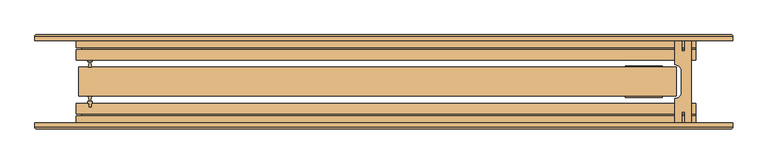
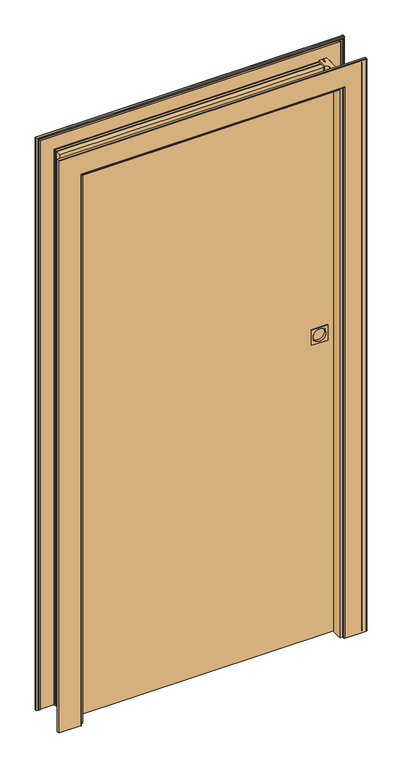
"""IFC4 building model written with IfcOpenShell, lengths in millimetres: door geometry, DoorInternal_Barausse_Feel Plus Sliding wall-125+x : Int_Door_Barausse_Feel-Plus-Sliding_900x2000_Wall-125+x."""

from ifc_helpers import new_model, si_unit, point, frame, frame_2d, origin, origin_with_axes, place, context, project, spatial, polyline, circle_curve, ellipse_curve, trimmed, segment, composite_curve, outline, extrude, faceted_brep, source, transform, mapped, element, save
from ifc_brep_helpers import plane_surface, cylinder_surface, revolved_surface, advanced_brep


def door_3eefad80(model_context):
    return source(origin(), model_context, "Body", "SolidModel", [
        advanced_brep(
        [(375.219, 23.7, 1100.0), (375.219, 14.7, 1100.0), (419.719, 14.7, 1100.0), (419.719, 23.7, 1100.0), (373.719, 22.2, 1100.0), (373.719, 11.7, 1100.0), (421.219, 11.7, 1100.0), (421.219, 22.2, 1100.0), (375.219, 13.2, 1100.0), (375.219, 11.7, 1100.0), (419.719, 11.7, 1100.0), (419.719, 13.2, 1100.0), (425.719, 22.2, 1071.75), (425.719, 22.2, 1128.25), (369.219, 22.2, 1128.25), (369.219, 22.2, 1071.75), (369.219, 23.7, 1071.75), (369.219, 23.7, 1128.25), (425.719, 23.7, 1128.25), (425.719, 23.7, 1071.75)],
        [
            (0, 1),
            (1, 2, circle_curve(frame((397.469, 14.7, 1100.0), z_axis=(0.0, -1.0, 0.0), x_axis=(-1.0, 0.0, 0.0)), 22.25)),
            (2, 3),
            (3, 0, circle_curve(frame((397.469, 23.7, 1100.0), z_axis=(0.0, 1.0, 0.0), x_axis=(-1.0, 0.0, 0.0)), 22.25)),
            (4, 5),
            (5, 6, circle_curve(frame((397.469, 11.7, 1100.0), z_axis=(0.0, 1.0, 0.0), x_axis=(-1.0, 0.0, 0.0)), 23.75)),
            (6, 7),
            (7, 4, circle_curve(frame((397.469, 22.2, 1100.0), z_axis=(0.0, -1.0, 0.0), x_axis=(-1.0, 0.0, 0.0)), 23.75)),
            (8, 9),
            (9, 10, circle_curve(frame((397.469, 11.7, 1100.0), z_axis=(0.0, -1.0, 0.0), x_axis=(-1.0, 0.0, 0.0)), 22.25)),
            (10, 11),
            (11, 8, circle_curve(frame((397.469, 13.2, 1100.0), z_axis=(0.0, 1.0, 0.0), x_axis=(-1.0, 0.0, 0.0)), 22.25)),
            (11, 8, circle_curve(frame((397.469, 13.2, 1100.0), z_axis=(0.0, -1.0, 0.0), x_axis=(-1.0, 0.0, 0.0)), 22.25)),
            (10, 9, circle_curve(frame((397.469, 11.7, 1100.0), z_axis=(0.0, -1.0, 0.0), x_axis=(-1.0, 0.0, 0.0)), 22.25)),
            (5, 6, circle_curve(frame((397.469, 11.7, 1100.0), z_axis=(0.0, -1.0, 0.0), x_axis=(-1.0, 0.0, 0.0)), 23.75)),
            (4, 7, circle_curve(frame((397.469, 22.2, 1100.0), z_axis=(0.0, -1.0, 0.0), x_axis=(-1.0, 0.0, 0.0)), 23.75)),
            (12, 13),
            (13, 14),
            (14, 15),
            (15, 12),
            (16, 15),
            (14, 17),
            (17, 16),
            (13, 18),
            (18, 17),
            (12, 19),
            (19, 18),
            (16, 19),
            (1, 2, circle_curve(frame((397.469, 14.7, 1100.0), z_axis=(0.0, 1.0, 0.0), x_axis=(-1.0, 0.0, 0.0)), 22.25)),
            (0, 3, circle_curve(frame((397.469, 23.7, 1100.0), z_axis=(0.0, 1.0, 0.0), x_axis=(-1.0, 0.0, 0.0)), 22.25)),
        ],
        [
            revolved_surface(polyline([(375.219, 14.7, 1100.0), (375.219, 23.7, 1100.0)]), (397.469, 13.2, 1100.0), (0.0, -1.0, 0.0)),
            cylinder_surface(frame((397.469, 13.2, 1100.0), z_axis=(0.0, -1.0, 0.0), x_axis=(-1.0, 0.0, 0.0)), 23.75),
            revolved_surface(polyline([(375.219, 11.7, 1100.0), (375.219, 13.2, 1100.0)]), (397.469, 13.2, 1100.0), (0.0, -1.0, 0.0)),
            plane_surface(frame((397.469, 13.2, 1100.0), z_axis=(0.0, -1.0, 0.0), x_axis=(-1.0, 0.0, 0.0))),
            plane_surface(frame((373.719, 11.7, 1100.0), z_axis=(0.0, -1.0, 0.0), x_axis=(-1.0, 0.0, 0.0))),
            plane_surface(frame((369.219, 22.2, 1100.0), z_axis=(0.0, -1.0, 0.0), x_axis=(-1.0, 0.0, 0.0))),
            plane_surface(frame((369.219, -57.7030663, 1071.75), z_axis=(-1.0, 0.0, 0.0), x_axis=(0.0, 1.0, 0.0))),
            plane_surface(frame((425.719, -57.7030663, 1128.25), z_axis=(0.0, 0.0, 1.0), x_axis=(0.0, -1.0, 0.0))),
            plane_surface(frame((425.719, -57.7030663, 1071.75), z_axis=(1.0, 0.0, 0.0), x_axis=(0.0, -1.0, 0.0))),
            plane_surface(frame((425.719, -57.7030663, 1071.75), z_axis=(0.0, 0.0, -1.0), x_axis=(0.0, 1.0, 0.0))),
            plane_surface(frame((397.469, 14.7, 1100.0), z_axis=(0.0, 1.0, 0.0), x_axis=(1.0, 0.0, 0.0))),
            plane_surface(frame((375.219, 23.7, 1100.0), z_axis=(0.0, 1.0, 0.0), x_axis=(1.0, 0.0, 0.0))),
        ],
        [
            (0, [[1, 2, 3, 4]]),
            (1, [[5, 6, 7, 8]]),
            (2, [[9, 10, 11, 12]]),
            (3, [[-12, 13]]),
            (2, [[14, -9, -13, -11]]),
            (4, [[15, -6], [-10, -14]]),
            (1, [[-15, -5, 16, -7]]),
            (5, [[17, 18, 19, 20], [-16, -8]]),
            (6, [[21, -19, 22, 23]]),
            (7, [[-22, -18, 24, 25]]),
            (8, [[-17, 26, 27, -24]]),
            (9, [[-26, -20, -21, 28]]),
            (10, [[-2, 29]]),
            (0, [[-29, -1, 30, -3]]),
            (11, [[-28, -23, -25, -27], [-4, -30]]),
        ],
    ),
        advanced_brep(
        [(419.719, -23.7, 1100.0), (419.719, -14.7, 1100.0), (375.219, -14.7, 1100.0), (375.219, -23.7, 1100.0), (421.219, -22.2, 1100.0), (421.219, -11.7, 1100.0), (373.719, -11.7, 1100.0), (373.719, -22.2, 1100.0), (419.719, -13.2, 1100.0), (419.719, -11.7, 1100.0), (375.219, -11.7, 1100.0), (375.219, -13.2, 1100.0), (369.219, -22.2, 1071.75), (369.219, -22.2, 1128.25), (425.719, -22.2, 1128.25), (425.719, -22.2, 1071.75), (425.719, -23.7, 1071.75), (425.719, -23.7, 1128.25), (369.219, -23.7, 1128.25), (369.219, -23.7, 1071.75)],
        [
            (0, 1),
            (1, 2, circle_curve(frame((397.469, -14.7, 1100.0), z_axis=(0.0, 1.0, 0.0), x_axis=(1.0, 0.0, 0.0)), 22.25)),
            (2, 3),
            (3, 0, circle_curve(frame((397.469, -23.7, 1100.0), z_axis=(0.0, -1.0, 0.0), x_axis=(1.0, 0.0, 0.0)), 22.25)),
            (4, 5),
            (5, 6, circle_curve(frame((397.469, -11.7, 1100.0), z_axis=(0.0, -1.0, 0.0), x_axis=(1.0, 0.0, 0.0)), 23.75)),
            (6, 7),
            (7, 4, circle_curve(frame((397.469, -22.2, 1100.0), z_axis=(0.0, 1.0, 0.0), x_axis=(1.0, 0.0, 0.0)), 23.75)),
            (8, 9),
            (9, 10, circle_curve(frame((397.469, -11.7, 1100.0), z_axis=(0.0, 1.0, 0.0), x_axis=(1.0, 0.0, 0.0)), 22.25)),
            (10, 11),
            (11, 8, circle_curve(frame((397.469, -13.2, 1100.0), z_axis=(0.0, -1.0, 0.0), x_axis=(1.0, 0.0, 0.0)), 22.25)),
            (11, 8, circle_curve(frame((397.469, -13.2, 1100.0), z_axis=(0.0, 1.0, 0.0), x_axis=(1.0, 0.0, 0.0)), 22.25)),
            (10, 9, circle_curve(frame((397.469, -11.7, 1100.0), z_axis=(0.0, 1.0, 0.0), x_axis=(1.0, 0.0, 0.0)), 22.25)),
            (5, 6, circle_curve(frame((397.469, -11.7, 1100.0), z_axis=(0.0, 1.0, 0.0), x_axis=(1.0, 0.0, 0.0)), 23.75)),
            (4, 7, circle_curve(frame((397.469, -22.2, 1100.0), z_axis=(0.0, 1.0, 0.0), x_axis=(1.0, 0.0, 0.0)), 23.75)),
            (12, 13),
            (13, 14),
            (14, 15),
            (15, 12),
            (16, 15),
            (14, 17),
            (17, 16),
            (13, 18),
            (18, 17),
            (12, 19),
            (19, 18),
            (16, 19),
            (1, 2, circle_curve(frame((397.469, -14.7, 1100.0), z_axis=(0.0, -1.0, 0.0), x_axis=(1.0, 0.0, 0.0)), 22.25)),
            (0, 3, circle_curve(frame((397.469, -23.7, 1100.0), z_axis=(0.0, -1.0, 0.0), x_axis=(1.0, 0.0, 0.0)), 22.25)),
        ],
        [
            revolved_surface(polyline([(419.719, -14.7, 1100.0), (419.719, -23.7, 1100.0)]), (397.469, -13.2, 1100.0), (0.0, 1.0, 0.0)),
            cylinder_surface(frame((397.469, -13.2, 1100.0), z_axis=(0.0, 1.0, 0.0), x_axis=(1.0, 0.0, 0.0)), 23.75),
            revolved_surface(polyline([(419.719, -11.7, 1100.0), (419.719, -13.2, 1100.0)]), (397.469, -13.2, 1100.0), (0.0, 1.0, 0.0)),
            plane_surface(frame((397.469, -13.2, 1100.0), z_axis=(0.0, 1.0, 0.0), x_axis=(1.0, 0.0, 0.0))),
            plane_surface(frame((421.219, -11.7, 1100.0), z_axis=(0.0, 1.0, 0.0), x_axis=(1.0, 0.0, 0.0))),
            plane_surface(frame((425.719, -22.2, 1100.0), z_axis=(0.0, 1.0, 0.0), x_axis=(1.0, 0.0, 0.0))),
            plane_surface(frame((425.719, 57.7030663, 1071.75), z_axis=(1.0, 0.0, 0.0), x_axis=(0.0, -1.0, 0.0))),
            plane_surface(frame((369.219, 57.7030663, 1128.25), z_axis=(0.0, 0.0, 1.0), x_axis=(0.0, 1.0, 0.0))),
            plane_surface(frame((369.219, 57.7030663, 1071.75), z_axis=(-1.0, 0.0, 0.0), x_axis=(0.0, 1.0, 0.0))),
            plane_surface(frame((369.219, 57.7030663, 1071.75), z_axis=(0.0, 0.0, -1.0), x_axis=(0.0, -1.0, 0.0))),
            plane_surface(frame((397.469, -14.7, 1100.0), z_axis=(0.0, -1.0, 0.0), x_axis=(-1.0, 0.0, 0.0))),
            plane_surface(frame((419.719, -23.7, 1100.0), z_axis=(0.0, -1.0, 0.0), x_axis=(-1.0, 0.0, 0.0))),
        ],
        [
            (0, [[1, 2, 3, 4]]),
            (1, [[5, 6, 7, 8]]),
            (2, [[9, 10, 11, 12]]),
            (3, [[-12, 13]]),
            (2, [[14, -9, -13, -11]]),
            (4, [[15, -6], [-10, -14]]),
            (1, [[-15, -5, 16, -7]]),
            (5, [[17, 18, 19, 20], [-16, -8]]),
            (6, [[21, -19, 22, 23]]),
            (7, [[-22, -18, 24, 25]]),
            (8, [[-17, 26, 27, -24]]),
            (9, [[-26, -20, -21, 28]]),
            (10, [[-2, 29]]),
            (0, [[-29, -1, 30, -3]]),
            (11, [[-28, -23, -25, -27], [-4, -30]]),
        ],
    ),
        extrude(outline(polyline([(-450.35, 39.0000026), (-447.35, 39.0000026), (-447.35, 33.0000026), (-445.35, 33.0000026), (-445.35, 30.5000026), (-448.5342105, 30.5000026), (-446.0710522, 22.7000013), (-451.6289478, 22.7000013), (-449.1657895, 30.5000026), (-452.35, 30.5000026), (-452.35, 33.0000026), (-450.35, 33.0000026), (-450.35, 39.0000026)])), origin_with_axes(), (0.0, 0.0, 1.0), 2003.5),
        extrude(outline(polyline([(-447.35, -39.0), (-450.35, -39.0), (-450.35, -33.0), (-452.35, -33.0), (-452.35, -30.5), (-449.1657895, -30.5), (-451.6289478, -22.6999987), (-446.0710522, -22.6999987), (-448.5342105, -30.5), (-445.35, -30.5), (-445.35, -33.0), (-447.35, -33.0), (-447.35, -39.0)])), origin_with_axes(), (0.0, 0.0, 1.0), 2028.5),
        advanced_brep(
        [(-531.1764934, 71.778125, 0.0), (-457.1764934, 71.778125, 0.0), (-455.1764934, 69.778125, 0.0), (-455.1764934, 57.5000026, 0.0), (-459.1764934, 57.5000026, 0.0), (-459.1764934, 62.578125, 0.0), (-471.1764934, 62.578125, 0.0), (-472.1764934, 63.578125, 0.0), (-519.1764934, 63.578125, 0.0), (-520.1764934, 62.578125, 0.0), (-525.3764934, 62.578125, 0.0), (-525.3764934, 65.078125, 0.0), (-529.1764934, 65.078125, 0.0), (-529.1764934, 62.578125, 0.0), (-533.1764934, 62.578125, 0.0), (-533.1764934, 69.778125, 0.0), (-533.1764934, 69.778125, 2091.8264934), (-531.1764934, 71.778125, 2089.8264934), (-533.1764934, 62.578125, 2091.8264934), (-529.1764934, 62.578125, 2087.8264934), (529.1764934, 62.578125, 2087.8264934), (529.1764934, 62.578125, 0.0), (533.1764934, 62.578125, 0.0), (533.1764934, 62.578125, 2091.8264934), (-529.1764934, 65.078125, 2087.8264934), (-525.3764934, 65.078125, 2084.0264934), (525.3764934, 65.078125, 2084.0264934), (525.3764934, 65.078125, 0.0), (529.1764934, 65.078125, 0.0), (529.1764934, 65.078125, 2087.8264934), (-525.3764934, 62.578125, 2084.0264934), (-520.1764934, 62.578125, 2078.8264934), (520.1764934, 62.578125, 2078.8264934), (520.1764934, 62.578125, 0.0), (525.3764934, 62.578125, 0.0), (525.3764934, 62.578125, 2084.0264934), (-519.1764934, 63.578125, 2077.8264934), (-472.1764934, 63.578125, 2030.8264934), (472.1764934, 63.578125, 2030.8264934), (472.1764934, 63.578125, 0.0), (519.1764934, 63.578125, 0.0), (519.1764934, 63.578125, 2077.8264934), (-471.1764934, 62.578125, 2029.8264934), (-459.1764934, 62.578125, 2017.8264934), (459.1764934, 62.578125, 2017.8264934), (459.1764934, 62.578125, 0.0), (471.1764934, 62.578125, 0.0), (471.1764934, 62.578125, 2029.8264934), (-459.1764934, 57.5000026, 2017.8264934), (-455.1764934, 57.5000026, 2013.8264934), (455.1764934, 57.5000026, 2013.8264934), (455.1764934, 57.5000026, 0.0), (459.1764934, 57.5000026, 0.0), (459.1764934, 57.5000026, 2017.8264934), (-455.1764934, 69.778125, 2013.8264934), (-457.1764934, 71.778125, 2015.8264934), (531.1764934, 71.778125, 2089.8264934), (531.1764934, 71.778125, 0.0), (457.1764934, 71.778125, 0.0), (457.1764934, 71.778125, 2015.8264934), (533.1764934, 69.778125, 0.0), (533.1764934, 69.778125, 2091.8264934), (455.1764934, 69.778125, 0.0), (455.1764934, 69.778125, 2013.8264934)],
        [
            (0, 1),
            (1, 2, circle_curve(frame((-457.1764934, 69.778125, 0.0), z_axis=(0.0, 0.0, -1.0), x_axis=(0.0, 1.0, 0.0)), 2.0)),
            (2, 3),
            (3, 4),
            (4, 5),
            (5, 6),
            (6, 7, circle_curve(frame((-472.1764934, 62.578125, 0.0), z_axis=(0.0, 0.0, 1.0), x_axis=(0.0, 1.0, 0.0)), 1.0)),
            (7, 8),
            (8, 9, circle_curve(frame((-519.1764934, 62.578125, 0.0), z_axis=(0.0, 0.0, 1.0), x_axis=(0.0, 1.0, 0.0)), 1.0)),
            (9, 10),
            (10, 11),
            (11, 12),
            (12, 13),
            (13, 14),
            (14, 15),
            (15, 0, circle_curve(frame((-531.1764934, 69.778125, 0.0), z_axis=(0.0, 0.0, -1.0), x_axis=(0.0, 1.0, 0.0)), 2.0)),
            (15, 16),
            (16, 17, ellipse_curve(frame((-531.1764934, 69.778125, 2089.8264934), z_axis=(-0.7071067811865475, 0.0, -0.7071067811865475), x_axis=(0.7071067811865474, 0.0, -0.7071067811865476)), 2.8284271, 2.0)),
            (17, 0),
            (14, 18),
            (18, 16),
            (13, 19),
            (19, 20),
            (20, 21),
            (21, 22),
            (22, 23),
            (23, 18),
            (12, 24),
            (24, 19),
            (11, 25),
            (25, 26),
            (26, 27),
            (27, 28),
            (28, 29),
            (29, 24),
            (10, 30),
            (30, 25),
            (9, 31),
            (31, 32),
            (32, 33),
            (33, 34),
            (34, 35),
            (35, 30),
            (8, 36),
            (36, 31, ellipse_curve(frame((-519.1764934, 62.578125, 2077.8264934), z_axis=(0.7071067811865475, 0.0, 0.7071067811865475), x_axis=(-0.7071067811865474, 0.0, 0.7071067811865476)), 1.4142136, 1.0)),
            (7, 37),
            (37, 38),
            (38, 39),
            (39, 40),
            (40, 41),
            (41, 36),
            (6, 42),
            (42, 37, ellipse_curve(frame((-472.1764934, 62.578125, 2030.8264934), z_axis=(0.7071067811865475, 0.0, 0.7071067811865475), x_axis=(-0.7071067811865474, 0.0, 0.7071067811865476)), 1.4142136, 1.0)),
            (5, 43),
            (43, 44),
            (44, 45),
            (45, 46),
            (46, 47),
            (47, 42),
            (4, 48),
            (48, 43),
            (3, 49),
            (49, 50),
            (50, 51),
            (51, 52),
            (52, 53),
            (53, 48),
            (2, 54),
            (54, 49),
            (1, 55),
            (55, 54, ellipse_curve(frame((-457.1764934, 69.778125, 2015.8264934), z_axis=(-0.7071067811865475, 0.0, -0.7071067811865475), x_axis=(0.7071067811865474, 0.0, -0.7071067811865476)), 2.8284271, 2.0)),
            (17, 56),
            (56, 57),
            (57, 58),
            (58, 59),
            (59, 55),
            (22, 60),
            (60, 61),
            (61, 23),
            (57, 60, circle_curve(frame((531.1764934, 69.778125, 0.0), z_axis=(0.0, 0.0, -1.0), x_axis=(0.0, 1.0, 0.0)), 2.0)),
            (21, 28),
            (27, 34),
            (33, 40, circle_curve(frame((519.1764934, 62.578125, 0.0), z_axis=(0.0, 0.0, 1.0), x_axis=(0.0, 1.0, 0.0)), 1.0)),
            (39, 46, circle_curve(frame((472.1764934, 62.578125, 0.0), z_axis=(0.0, 0.0, 1.0), x_axis=(0.0, 1.0, 0.0)), 1.0)),
            (45, 52),
            (51, 62),
            (62, 58, circle_curve(frame((457.1764934, 69.778125, 0.0), z_axis=(0.0, 0.0, -1.0), x_axis=(0.0, 1.0, 0.0)), 2.0)),
            (20, 29),
            (26, 35),
            (32, 41, ellipse_curve(frame((519.1764934, 62.578125, 2077.8264934), z_axis=(-0.7071067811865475, 0.0, 0.7071067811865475), x_axis=(-0.7071067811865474, 0.0, -0.7071067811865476)), 1.4142136, 1.0)),
            (38, 47, ellipse_curve(frame((472.1764934, 62.578125, 2030.8264934), z_axis=(-0.7071067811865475, 0.0, 0.7071067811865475), x_axis=(-0.7071067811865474, 0.0, -0.7071067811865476)), 1.4142136, 1.0)),
            (44, 53),
            (62, 63),
            (63, 59, ellipse_curve(frame((457.1764934, 69.778125, 2015.8264934), z_axis=(0.7071067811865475, 0.0, -0.7071067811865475), x_axis=(0.7071067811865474, 0.0, 0.7071067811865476)), 2.8284271, 2.0)),
            (56, 61, ellipse_curve(frame((531.1764934, 69.778125, 2089.8264934), z_axis=(0.7071067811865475, 0.0, -0.7071067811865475), x_axis=(0.7071067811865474, 0.0, 0.7071067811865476)), 2.8284271, 2.0)),
            (50, 63),
            (16, 61),
            (63, 54),
        ],
        [
            plane_surface(frame((-476.55, 62.5, 0.0), z_axis=(0.0, 0.0, -1.0), x_axis=(1.0, 0.0, 0.0))),
            cylinder_surface(frame((-531.1764934, 69.778125, 0.0), z_axis=(0.0, 0.0, -1.0), x_axis=(0.0, 1.0, 0.0)), 2.0),
            plane_surface(frame((-533.1764934, 69.778125, 0.0), z_axis=(-1.0, 0.0, 0.0), x_axis=(0.0, 0.0, 1.0))),
            plane_surface(frame((-533.1764934, 62.578125, 0.0), z_axis=(0.0, -1.0, 0.0), x_axis=(0.0, 0.0, 1.0))),
            plane_surface(frame((-529.1764934, 62.578125, 0.0), z_axis=(1.0, 0.0, 0.0), x_axis=(0.0, 0.0, 1.0))),
            plane_surface(frame((-529.1764934, 65.078125, 0.0), z_axis=(0.0, -1.0, 0.0), x_axis=(0.0, 0.0, 1.0))),
            plane_surface(frame((-525.3764934, 65.078125, 0.0), z_axis=(-1.0, 0.0, 0.0), x_axis=(0.0, 0.0, 1.0))),
            plane_surface(frame((-525.3764934, 62.578125, 0.0), z_axis=(0.0, -1.0, 0.0), x_axis=(0.0, 0.0, 1.0))),
            revolved_surface(polyline([(-519.1764934, 63.578125, 2078.8264934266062), (-519.1764934, 63.578125, 0.0)]), (-519.1764934, 62.578125, 0.0), (0.0, 0.0, 1.0)),
            plane_surface(frame((-519.1764934, 63.578125, 0.0), z_axis=(0.0, -1.0, 0.0), x_axis=(0.0, 0.0, 1.0))),
            revolved_surface(polyline([(-472.1764934, 63.578125, 2031.826493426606), (-472.1764934, 63.578125, 0.0)]), (-472.1764934, 62.578125, 0.0), (0.0, 0.0, 1.0)),
            plane_surface(frame((-471.1764934, 62.578125, 0.0), z_axis=(0.0, -1.0, 0.0), x_axis=(0.0, 0.0, 1.0))),
            plane_surface(frame((-459.1764934, 62.578125, 0.0), z_axis=(-1.0, 0.0, 0.0), x_axis=(0.0, 0.0, 1.0))),
            plane_surface(frame((-459.1764934, 57.5000026, 0.0), z_axis=(0.0, -1.0, 0.0), x_axis=(0.0, 0.0, 1.0))),
            plane_surface(frame((-455.1764934, 57.5000026, 0.0), z_axis=(1.0, 0.0, 0.0), x_axis=(0.0, 0.0, 1.0))),
            cylinder_surface(frame((-457.1764934, 69.778125, 0.0), z_axis=(0.0, 0.0, -1.0), x_axis=(0.0, 1.0, 0.0)), 2.0),
            plane_surface(frame((-457.1764934, 71.778125, 0.0), z_axis=(0.0, 1.0, 0.0), x_axis=(0.0, 0.0, 1.0))),
            plane_surface(frame((533.1764934, 69.778125, 2091.8264934), z_axis=(1.0, 0.0, 0.0), x_axis=(0.0, 0.0, -1.0))),
            plane_surface(frame((476.55, 62.5, 0.0), z_axis=(0.0, 0.0, -1.0), x_axis=(-1.0, 0.0, 0.0))),
            plane_surface(frame((529.1764934, 62.578125, 2087.8264934), z_axis=(-1.0, 0.0, 0.0), x_axis=(0.0, 0.0, -1.0))),
            plane_surface(frame((525.3764934, 65.078125, 2084.0264934), z_axis=(1.0, 0.0, 0.0), x_axis=(0.0, 0.0, -1.0))),
            revolved_surface(polyline([(519.1764934, 63.578125, 0.0), (519.1764934, 63.578125, 2078.8264934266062)]), (519.1764934, 62.578125, 2035.2), (0.0, 0.0, -1.0)),
            revolved_surface(polyline([(472.1764934, 63.578125, 0.0), (472.1764934, 63.578125, 2031.826493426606)]), (472.1764934, 62.578125, 2035.2), (0.0, 0.0, -1.0)),
            plane_surface(frame((459.1764934, 62.578125, 2017.8264934), z_axis=(1.0, 0.0, 0.0), x_axis=(0.0, 0.0, -1.0))),
            cylinder_surface(frame((457.1764934, 69.778125, 2035.2), z_axis=(0.0, 0.0, 1.0), x_axis=(0.0, 1.0, 0.0)), 2.0),
            cylinder_surface(frame((531.1764934, 69.778125, 2035.2), z_axis=(0.0, 0.0, 1.0), x_axis=(0.0, 1.0, 0.0)), 2.0),
            plane_surface(frame((455.1764934, 57.5000026, 2013.8264934), z_axis=(-1.0, 0.0, 0.0), x_axis=(0.0, 0.0, -1.0))),
            cylinder_surface(frame((-476.55, 69.778125, 2089.8264934), z_axis=(-1.0, 0.0, 0.0), x_axis=(0.0, 1.0, 0.0)), 2.0),
            plane_surface(frame((-533.1764934, 69.778125, 2091.8264934), z_axis=(0.0, 0.0, 1.0), x_axis=(1.0, 0.0, 0.0))),
            plane_surface(frame((-529.1764934, 62.578125, 2087.8264934), z_axis=(0.0, 0.0, -1.0), x_axis=(1.0, 0.0, 0.0))),
            plane_surface(frame((-525.3764934, 65.078125, 2084.0264934), z_axis=(0.0, 0.0, 1.0), x_axis=(1.0, 0.0, 0.0))),
            revolved_surface(polyline([(520.1764934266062, 63.578125, 2077.8264934), (-520.1764934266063, 63.578125, 2077.8264934)]), (-476.55, 62.578125, 2077.8264934), (1.0, 0.0, 0.0)),
            revolved_surface(polyline([(473.1764934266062, 63.578125, 2030.8264934), (-473.17649342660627, 63.578125, 2030.8264934)]), (-476.55, 62.578125, 2030.8264934), (1.0, 0.0, 0.0)),
            plane_surface(frame((-459.1764934, 62.578125, 2017.8264934), z_axis=(0.0, 0.0, 1.0), x_axis=(1.0, 0.0, 0.0))),
            cylinder_surface(frame((-476.55, 69.778125, 2015.8264934), z_axis=(-1.0, 0.0, 0.0), x_axis=(0.0, 1.0, 0.0)), 2.0),
            plane_surface(frame((-455.1764934, 57.5000026, 2013.8264934), z_axis=(0.0, 0.0, -1.0), x_axis=(1.0, 0.0, 0.0))),
        ],
        [
            (0, [[1, 2, 3, 4, 5, 6, 7, 8, 9, 10, 11, 12, 13, 14, 15, 16]]),
            (1, [[17, 18, 19, -16]]),
            (2, [[20, 21, -17, -15]]),
            (3, [[22, 23, 24, 25, 26, 27, -20, -14]]),
            (4, [[28, 29, -22, -13]]),
            (5, [[30, 31, 32, 33, 34, 35, -28, -12]]),
            (6, [[36, 37, -30, -11]]),
            (7, [[38, 39, 40, 41, 42, 43, -36, -10]]),
            (8, [[44, 45, -38, -9]]),
            (9, [[46, 47, 48, 49, 50, 51, -44, -8]]),
            (10, [[52, 53, -46, -7]]),
            (11, [[54, 55, 56, 57, 58, 59, -52, -6]]),
            (12, [[60, 61, -54, -5]]),
            (13, [[62, 63, 64, 65, 66, 67, -60, -4]]),
            (14, [[68, 69, -62, -3]]),
            (15, [[70, 71, -68, -2]]),
            (16, [[-19, 72, 73, 74, 75, 76, -70, -1]]),
            (17, [[-26, 77, 78, 79]]),
            (18, [[80, -77, -25, 81, -33, 82, -41, 83, -49, 84, -57, 85, -65, 86, 87, -74]]),
            (19, [[-34, -81, -24, 88]]),
            (20, [[-42, -82, -32, 89]]),
            (21, [[-50, -83, -40, 90]]),
            (22, [[-58, -84, -48, 91]]),
            (23, [[-66, -85, -56, 92]]),
            (24, [[-75, -87, 93, 94]]),
            (25, [[-78, -80, -73, 95]]),
            (26, [[-93, -86, -64, 96]]),
            (27, [[97, -95, -72, -18]]),
            (28, [[-27, -79, -97, -21]]),
            (29, [[-35, -88, -23, -29]]),
            (30, [[-43, -89, -31, -37]]),
            (31, [[-51, -90, -39, -45]]),
            (32, [[-59, -91, -47, -53]]),
            (33, [[-67, -92, -55, -61]]),
            (34, [[-76, -94, 98, -71]]),
            (35, [[-98, -96, -63, -69]]),
        ],
    ),
        extrude(outline(composite_curve([segment(polyline([(445.120582, 25.9383527), (445.120582, 62.4317155), (455.1937641, 62.4317155), (455.1937641, 46.4707829), (460.1500171, 46.4707829), (460.1500171, 62.4317155), (470.1500075, 62.4317155), (470.1500075, -62.4660451), (460.1500171, -62.4660451), (460.1500171, -46.529227), (455.1937641, -46.529227), (455.1937641, -62.4660451), (445.120582, -62.4660451), (445.120582, -26.0237549)]), True, "CONTINUOUS"), segment(trimmed(circle_curve(frame_2d((444.3305175, -15.0511137)), 11.001048), [point((445.120582, -26.0237549))], [point((455.0463645, -17.5398242))], True, "CARTESIAN"), True, "CONTINUOUS"), segment(polyline([(455.0463645, -17.5398242), (455.0463645, 17.5398242)]), True, "CONTINUOUS"), segment(trimmed(circle_curve(frame_2d((444.4431364, 15.0730687)), 10.8863828), [point((455.0463645, 17.5398242))], [point((445.120582, 25.9383527))], True, "CARTESIAN"), True, "CONTINUOUS")], self_intersect=False)), origin_with_axes(), (0.0, 0.0, 1.0), 2035.2),
        faceted_brep([(-455.049997, -62.5, 0.0), (-455.049997, -57.5, 0.0), (-459.85, -57.5, 0.0), (-459.85, -62.5, 0.0), (-469.85, -62.5, 0.0), (-469.85, -52.4999983, 0.0), (-461.85, -52.4999983, 0.0), (-461.85, -49.4999983, 0.0), (-469.85, -49.4999983, 0.0), (-469.85, -33.0, 0.0), (-450.35, -33.0, 0.0), (-450.35, -39.4, 0.0), (-447.35, -39.4, 0.0), (-447.35, -33.0, 0.0), (-444.85, -33.0, 0.0), (-444.85, -62.5, 0.0), (476.55, -62.5, 2013.699997), (-455.049997, -62.5, 2013.699997), (-444.85, -62.5, 2003.5), (476.55, -62.5, 2003.5), (-444.85, -33.0, 2003.5), (476.55, -33.0, 2003.5), (-447.35, -33.0, 2006.0), (476.55, -33.0, 2006.0), (-447.35, -39.4, 2006.0), (476.55, -39.4, 2006.0), (-450.35, -39.4, 2009.0), (476.55, -39.4, 2009.0), (-450.35, -33.0, 2009.0), (476.55, -33.0, 2009.0), (-469.85, -33.0, 2028.5), (476.55, -33.0, 2028.5), (-469.85, -49.4999983, 2028.5), (476.55, -49.4999983, 2028.5), (-461.85, -49.4999983, 2020.5), (476.55, -49.4999983, 2020.5), (-461.85, -52.4999983, 2020.5), (476.55, -52.4999983, 2020.5), (-469.85, -52.4999983, 2028.5), (476.55, -52.4999983, 2028.5), (-469.85, -62.5, 2028.5), (476.55, -62.5, 2028.5), (-459.85, -62.5, 2018.5), (476.55, -62.5, 2018.5), (-459.85, -57.5, 2018.5), (476.55, -57.5, 2018.5), (-455.049997, -57.5, 2013.699997), (476.55, -57.5, 2013.699997)], [[[0, 1, 2, 3, 4, 5, 6, 7, 8, 9, 10, 11, 12, 13, 14, 15]], [[16, 17, 0, 15, 18, 19]], [[18, 15, 14, 20]], [[21, 20, 14, 13, 22, 23]], [[22, 13, 12, 24]], [[25, 24, 12, 11, 26, 27]], [[26, 11, 10, 28]], [[29, 28, 10, 9, 30, 31]], [[30, 9, 8, 32]], [[33, 32, 8, 7, 34, 35]], [[34, 7, 6, 36]], [[37, 36, 6, 5, 38, 39]], [[38, 5, 4, 40]], [[41, 40, 4, 3, 42, 43]], [[42, 3, 2, 44]], [[45, 44, 2, 1, 46, 47]], [[46, 1, 0, 17]], [[16, 19, 21, 23, 25, 27, 29, 31, 33, 35, 37, 39, 41, 43, 45, 47]], [[47, 46, 17, 16]], [[43, 42, 44, 45]], [[39, 38, 40, 41]], [[35, 34, 36, 37]], [[31, 30, 32, 33]], [[27, 26, 28, 29]], [[23, 22, 24, 25]], [[19, 18, 20, 21]]]),
        faceted_brep([(-455.049997, 62.5000026, 0.0), (-444.85, 62.5000026, 0.0), (-444.85, 33.0000026, 0.0), (-447.35, 33.0000026, 0.0), (-447.35, 39.4000026, 0.0), (-450.35, 39.4000026, 0.0), (-450.35, 33.0000026, 0.0), (-469.85, 33.0000026, 0.0), (-469.85, 49.5000009, 0.0), (-461.85, 49.5000009, 0.0), (-461.85, 52.5000009, 0.0), (-469.85, 52.5000009, 0.0), (-469.85, 62.5000026, 0.0), (-459.85, 62.5000026, 0.0), (-459.85, 57.5000026, 0.0), (-455.049997, 57.5000026, 0.0), (-455.049997, 62.5000026, 2013.699997), (-455.049997, 57.5000026, 2013.699997), (476.55, 57.5000026, 2013.699997), (-459.85, 57.5000026, 2018.5), (476.55, 57.5000026, 2018.5), (-459.85, 62.5000026, 2018.5), (476.55, 62.5000026, 2018.5), (-469.85, 62.5000026, 2028.5), (476.55, 62.5000026, 2028.5), (-469.85, 52.5000009, 2028.5), (476.55, 52.5000009, 2028.5), (-461.85, 52.5000009, 2020.5), (476.55, 52.5000009, 2020.5), (-461.85, 49.5000009, 2020.5), (476.55, 49.5000009, 2020.5), (-469.85, 49.5000009, 2028.5), (476.55, 49.5000009, 2028.5), (-469.85, 33.0000026, 2028.5), (476.55, 33.0000026, 2028.5), (-450.35, 33.0000026, 2009.0), (476.55, 33.0000026, 2009.0), (-450.35, 39.4000026, 2009.0), (476.55, 39.4000026, 2009.0), (-447.35, 39.4000026, 2006.0), (476.55, 39.4000026, 2006.0), (-447.35, 33.0000026, 2006.0), (476.55, 33.0000026, 2006.0), (-444.85, 33.0000026, 2003.5), (476.55, 33.0000026, 2003.5), (-444.85, 62.5000026, 2003.5), (476.55, 62.5000026, 2003.5), (476.55, 62.5000026, 2013.699997)], [[[0, 1, 2, 3, 4, 5, 6, 7, 8, 9, 10, 11, 12, 13, 14, 15]], [[16, 0, 15, 17]], [[18, 17, 15, 14, 19, 20]], [[19, 14, 13, 21]], [[22, 21, 13, 12, 23, 24]], [[23, 12, 11, 25]], [[26, 25, 11, 10, 27, 28]], [[27, 10, 9, 29]], [[30, 29, 9, 8, 31, 32]], [[31, 8, 7, 33]], [[34, 33, 7, 6, 35, 36]], [[35, 6, 5, 37]], [[38, 37, 5, 4, 39, 40]], [[39, 4, 3, 41]], [[42, 41, 3, 2, 43, 44]], [[43, 2, 1, 45]], [[46, 45, 1, 0, 16, 47]], [[47, 18, 20, 22, 24, 26, 28, 30, 32, 34, 36, 38, 40, 42, 44, 46]], [[44, 43, 45, 46]], [[40, 39, 41, 42]], [[36, 35, 37, 38]], [[32, 31, 33, 34]], [[28, 27, 29, 30]], [[24, 23, 25, 26]], [[20, 19, 21, 22]], [[47, 16, 17, 18]]]),
        advanced_brep(
        [(531.1764934, -72.0125, 0.0), (457.1764934, -72.0125, 0.0), (455.1764934, -70.0125, 0.0), (455.206247, -59.3755907, 0.0), (456.3764934, -58.2053443, 0.0), (459.1764934, -58.2053443, 0.0), (459.1764934, -62.8125, 0.0), (471.1764934, -62.8125, 0.0), (472.1764934, -63.8125, 0.0), (519.1764934, -63.8125, 0.0), (520.1764934, -62.8125, 0.0), (525.3764934, -62.8125, 0.0), (525.3764934, -65.3125, 0.0), (529.1764934, -65.3125, 0.0), (529.1764934, -62.8125, 0.0), (533.1764934, -62.8125, 0.0), (533.1764934, -70.0125, 0.0), (533.1764934, -70.0125, 2091.8264934), (531.1764934, -72.0125, 2089.8264934), (533.1764934, -62.8125, 2091.8264934), (529.1764934, -62.8125, 2087.8264934), (-529.1764934, -62.8125, 2087.8264934), (-529.1764934, -62.8125, 0.0), (-533.1764934, -62.8125, 0.0), (-533.1764934, -62.8125, 2091.8264934), (529.1764934, -65.3125, 2087.8264934), (525.3764934, -65.3125, 2084.0264934), (-525.3764934, -65.3125, 2084.0264934), (-525.3764934, -65.3125, 0.0), (-529.1764934, -65.3125, 0.0), (-529.1764934, -65.3125, 2087.8264934), (525.3764934, -62.8125, 2084.0264934), (520.1764934, -62.8125, 2078.8264934), (-520.1764934, -62.8125, 2078.8264934), (-520.1764934, -62.8125, 0.0), (-525.3764934, -62.8125, 0.0), (-525.3764934, -62.8125, 2084.0264934), (519.1764934, -63.8125, 2077.8264934), (472.1764934, -63.8125, 2030.8264934), (-472.1764934, -63.8125, 2030.8264934), (-472.1764934, -63.8125, 0.0), (-519.1764934, -63.8125, 0.0), (-519.1764934, -63.8125, 2077.8264934), (471.1764934, -62.8125, 2029.8264934), (459.1764934, -62.8125, 2017.8264934), (-459.1764934, -62.8125, 2017.8264934), (-459.1764934, -62.8125, 0.0), (-471.1764934, -62.8125, 0.0), (-471.1764934, -62.8125, 2029.8264934), (459.1764934, -58.2053443, 2017.8264934), (456.3764934, -58.2053443, 2015.0264934), (-456.3764934, -58.2053443, 2015.0264934), (-456.3764934, -58.2053443, 0.0), (-459.1764934, -58.2053443, 0.0), (-459.1764934, -58.2053443, 2017.8264934), (455.206247, -59.3755907, 2013.856247), (455.1764934, -70.0125, 2013.8264934), (457.1764934, -72.0125, 2015.8264934), (-531.1764934, -72.0125, 2089.8264934), (-531.1764934, -72.0125, 0.0), (-457.1764934, -72.0125, 0.0), (-457.1764934, -72.0125, 2015.8264934), (-533.1764934, -70.0125, 0.0), (-455.206247, -59.3755907, 0.0), (-455.1764934, -70.0125, 0.0), (-455.1764934, -70.0125, 2013.8264934), (-455.206247, -59.3755907, 2013.856247), (-533.1764934, -70.0125, 2091.8264934)],
        [
            (0, 1),
            (1, 2, circle_curve(frame((457.1764934, -70.0125, 0.0), z_axis=(0.0, 0.0, -1.0), x_axis=(-1.0, 0.0, 0.0)), 2.0)),
            (2, 3),
            (3, 4),
            (4, 5),
            (5, 6),
            (6, 7),
            (7, 8, circle_curve(frame((472.1764934, -62.8125, 0.0), z_axis=(0.0, 0.0, 1.0), x_axis=(-1.0, 0.0, 0.0)), 1.0)),
            (8, 9),
            (9, 10, circle_curve(frame((519.1764934, -62.8125, 0.0), z_axis=(0.0, 0.0, 1.0), x_axis=(-1.0, 0.0, 0.0)), 1.0)),
            (10, 11),
            (11, 12),
            (12, 13),
            (13, 14),
            (14, 15),
            (15, 16),
            (16, 0, circle_curve(frame((531.1764934, -70.0125, 0.0), z_axis=(0.0, 0.0, -1.0), x_axis=(-1.0, 0.0, 0.0)), 2.0)),
            (16, 17),
            (17, 18, ellipse_curve(frame((531.1764934, -70.0125, 2089.8264934), z_axis=(0.7071067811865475, 0.0, -0.7071067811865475), x_axis=(-0.7071067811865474, 0.0, -0.7071067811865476)), 2.8284271, 2.0)),
            (18, 0),
            (15, 19),
            (19, 17),
            (14, 20),
            (20, 21),
            (21, 22),
            (22, 23),
            (23, 24),
            (24, 19),
            (13, 25),
            (25, 20),
            (12, 26),
            (26, 27),
            (27, 28),
            (28, 29),
            (29, 30),
            (30, 25),
            (11, 31),
            (31, 26),
            (10, 32),
            (32, 33),
            (33, 34),
            (34, 35),
            (35, 36),
            (36, 31),
            (9, 37),
            (37, 32, ellipse_curve(frame((519.1764934, -62.8125, 2077.8264934), z_axis=(-0.7071067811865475, 0.0, 0.7071067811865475), x_axis=(0.7071067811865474, 0.0, 0.7071067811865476)), 1.4142136, 1.0)),
            (8, 38),
            (38, 39),
            (39, 40),
            (40, 41),
            (41, 42),
            (42, 37),
            (7, 43),
            (43, 38, ellipse_curve(frame((472.1764934, -62.8125, 2030.8264934), z_axis=(-0.7071067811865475, 0.0, 0.7071067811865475), x_axis=(0.7071067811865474, 0.0, 0.7071067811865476)), 1.4142136, 1.0)),
            (6, 44),
            (44, 45),
            (45, 46),
            (46, 47),
            (47, 48),
            (48, 43),
            (5, 49),
            (49, 44),
            (4, 50),
            (50, 51),
            (51, 52),
            (52, 53),
            (53, 54),
            (54, 49),
            (3, 55),
            (55, 50),
            (2, 56),
            (56, 55),
            (1, 57),
            (57, 56, ellipse_curve(frame((457.1764934, -70.0125, 2015.8264934), z_axis=(0.7071067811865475, 0.0, -0.7071067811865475), x_axis=(-0.7071067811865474, 0.0, -0.7071067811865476)), 2.8284271, 2.0)),
            (18, 58),
            (58, 59),
            (59, 60),
            (60, 61),
            (61, 57),
            (59, 62, circle_curve(frame((-531.1764934, -70.0125, 0.0), z_axis=(0.0, 0.0, -1.0), x_axis=(1.0, 0.0, 0.0)), 2.0)),
            (62, 23),
            (22, 29),
            (28, 35),
            (34, 41, circle_curve(frame((-519.1764934, -62.8125, 0.0), z_axis=(0.0, 0.0, 1.0), x_axis=(1.0, 0.0, 0.0)), 1.0)),
            (40, 47, circle_curve(frame((-472.1764934, -62.8125, 0.0), z_axis=(0.0, 0.0, 1.0), x_axis=(1.0, 0.0, 0.0)), 1.0)),
            (46, 53),
            (52, 63),
            (63, 64),
            (64, 60, circle_curve(frame((-457.1764934, -70.0125, 0.0), z_axis=(0.0, 0.0, -1.0), x_axis=(1.0, 0.0, 0.0)), 2.0)),
            (64, 65),
            (65, 61, ellipse_curve(frame((-457.1764934, -70.0125, 2015.8264934), z_axis=(-0.7071067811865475, 0.0, -0.7071067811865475), x_axis=(-0.7071067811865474, 0.0, 0.7071067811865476)), 2.8284271, 2.0)),
            (63, 66),
            (66, 65),
            (51, 66),
            (45, 54),
            (39, 48, ellipse_curve(frame((-472.1764934, -62.8125, 2030.8264934), z_axis=(0.7071067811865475, 0.0, 0.7071067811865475), x_axis=(0.7071067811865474, 0.0, -0.7071067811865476)), 1.4142136, 1.0)),
            (33, 42, ellipse_curve(frame((-519.1764934, -62.8125, 2077.8264934), z_axis=(0.7071067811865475, 0.0, 0.7071067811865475), x_axis=(0.7071067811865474, 0.0, -0.7071067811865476)), 1.4142136, 1.0)),
            (27, 36),
            (21, 30),
            (62, 67),
            (67, 24),
            (58, 67, ellipse_curve(frame((-531.1764934, -70.0125, 2089.8264934), z_axis=(-0.7071067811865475, 0.0, -0.7071067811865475), x_axis=(-0.7071067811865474, 0.0, 0.7071067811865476)), 2.8284271, 2.0)),
            (17, 67),
            (55, 66),
            (56, 65),
        ],
        [
            plane_surface(frame((476.55, -62.5, 0.0), z_axis=(0.0, 0.0, -1.0), x_axis=(-1.0, 0.0, 0.0))),
            cylinder_surface(frame((531.1764934, -70.0125, 0.0), z_axis=(0.0, 0.0, -1.0), x_axis=(-1.0, 0.0, 0.0)), 2.0),
            plane_surface(frame((533.1764934, -70.0125, 0.0), z_axis=(1.0, 0.0, 0.0), x_axis=(0.0, 0.0, 1.0))),
            plane_surface(frame((533.1764934, -62.8125, 0.0), z_axis=(0.0, 1.0, 0.0), x_axis=(0.0, 0.0, 1.0))),
            plane_surface(frame((529.1764934, -62.8125, 0.0), z_axis=(-1.0, 0.0, 0.0), x_axis=(0.0, 0.0, 1.0))),
            plane_surface(frame((529.1764934, -65.3125, 0.0), z_axis=(0.0, 1.0, 0.0), x_axis=(0.0, 0.0, 1.0))),
            plane_surface(frame((525.3764934, -65.3125, 0.0), z_axis=(1.0, 0.0, 0.0), x_axis=(0.0, 0.0, 1.0))),
            plane_surface(frame((525.3764934, -62.8125, 0.0), z_axis=(0.0, 1.0, 0.0), x_axis=(0.0, 0.0, 1.0))),
            revolved_surface(polyline([(518.1764934, -62.8125, 2078.8264934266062), (518.1764934, -62.8125, 0.0)]), (519.1764934, -62.8125, 0.0), (0.0, 0.0, 1.0)),
            plane_surface(frame((519.1764934, -63.8125, 0.0), z_axis=(0.0, 1.0, 0.0), x_axis=(0.0, 0.0, 1.0))),
            revolved_surface(polyline([(471.1764934, -62.8125, 2031.826493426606), (471.1764934, -62.8125, 0.0)]), (472.1764934, -62.8125, 0.0), (0.0, 0.0, 1.0)),
            plane_surface(frame((471.1764934, -62.8125, 0.0), z_axis=(0.0, 1.0, 0.0), x_axis=(0.0, 0.0, 1.0))),
            plane_surface(frame((459.1764934, -62.8125, 0.0), z_axis=(1.0, 0.0, 0.0), x_axis=(0.0, 0.0, 1.0))),
            plane_surface(frame((459.1764934, -58.2053443, 0.0), z_axis=(0.0, 1.0, 0.0), x_axis=(0.0, 0.0, 1.0))),
            plane_surface(frame((456.3764934, -58.2053443, 0.0), z_axis=(-0.7071067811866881, 0.707106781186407, 0.0), x_axis=(0.0, 0.0, 1.0))),
            plane_surface(frame((455.206247, -59.3755907, 0.0), z_axis=(-0.999996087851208, 0.002797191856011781, 0.0), x_axis=(0.0, 0.0, 1.0))),
            cylinder_surface(frame((457.1764934, -70.0125, 0.0), z_axis=(0.0, 0.0, -1.0), x_axis=(-1.0, 0.0, 0.0)), 2.0),
            plane_surface(frame((457.1764934, -72.0125, 0.0), z_axis=(0.0, -1.0, 0.0), x_axis=(0.0, 0.0, 1.0))),
            plane_surface(frame((-476.55, -62.5, 0.0), z_axis=(0.0, 0.0, -1.0), x_axis=(1.0, 0.0, 0.0))),
            cylinder_surface(frame((-457.1764934, -70.0125, 2035.2), z_axis=(0.0, 0.0, 1.0), x_axis=(1.0, 0.0, 0.0)), 2.0),
            plane_surface(frame((-455.206247, -59.3755907, 2013.856247), z_axis=(0.999996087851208, 0.002797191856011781, 0.0), x_axis=(0.0, 0.0, -1.0))),
            plane_surface(frame((-456.3764934, -58.2053443, 2015.0264934), z_axis=(0.7071067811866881, 0.707106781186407, 0.0), x_axis=(0.0, 0.0, -1.0))),
            plane_surface(frame((-459.1764934, -62.8125, 2017.8264934), z_axis=(-1.0, 0.0, 0.0), x_axis=(0.0, 0.0, -1.0))),
            revolved_surface(polyline([(-471.1764934, -62.8125, 0.0), (-471.1764934, -62.8125, 2031.826493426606)]), (-472.1764934, -62.8125, 2035.2), (0.0, 0.0, -1.0)),
            revolved_surface(polyline([(-518.1764934, -62.8125, 0.0), (-518.1764934, -62.8125, 2078.8264934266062)]), (-519.1764934, -62.8125, 2035.2), (0.0, 0.0, -1.0)),
            plane_surface(frame((-525.3764934, -65.3125, 2084.0264934), z_axis=(-1.0, 0.0, 0.0), x_axis=(0.0, 0.0, -1.0))),
            plane_surface(frame((-529.1764934, -62.8125, 2087.8264934), z_axis=(1.0, 0.0, 0.0), x_axis=(0.0, 0.0, -1.0))),
            plane_surface(frame((-533.1764934, -70.0125, 2091.8264934), z_axis=(-1.0, 0.0, 0.0), x_axis=(0.0, 0.0, -1.0))),
            cylinder_surface(frame((-531.1764934, -70.0125, 2035.2), z_axis=(0.0, 0.0, 1.0), x_axis=(1.0, 0.0, 0.0)), 2.0),
            cylinder_surface(frame((476.55, -70.0125, 2089.8264934), z_axis=(1.0, 0.0, 0.0), x_axis=(0.0, 0.0, -1.0)), 2.0),
            plane_surface(frame((533.1764934, -70.0125, 2091.8264934), z_axis=(0.0, 0.0, 1.0), x_axis=(-1.0, 0.0, 0.0))),
            plane_surface(frame((529.1764934, -62.8125, 2087.8264934), z_axis=(0.0, 0.0, -1.0), x_axis=(-1.0, 0.0, 0.0))),
            plane_surface(frame((525.3764934, -65.3125, 2084.0264934), z_axis=(0.0, 0.0, 1.0), x_axis=(-1.0, 0.0, 0.0))),
            revolved_surface(polyline([(-520.1764934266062, -62.8125, 2076.8264934), (520.1764934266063, -62.8125, 2076.8264934)]), (476.55, -62.8125, 2077.8264934), (-1.0, 0.0, 0.0)),
            revolved_surface(polyline([(-473.1764934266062, -62.8125, 2029.8264934), (473.17649342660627, -62.8125, 2029.8264934)]), (476.55, -62.8125, 2030.8264934), (-1.0, 0.0, 0.0)),
            plane_surface(frame((459.1764934, -62.8125, 2017.8264934), z_axis=(0.0, 0.0, 1.0), x_axis=(-1.0, 0.0, 0.0))),
            plane_surface(frame((456.3764934, -58.2053443, 2015.0264934), z_axis=(0.0, 0.707106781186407, -0.7071067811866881), x_axis=(-1.0, 0.0, 0.0))),
            plane_surface(frame((455.206247, -59.3755907, 2013.856247), z_axis=(0.0, 0.002797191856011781, -0.999996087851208), x_axis=(-1.0, 0.0, 0.0))),
            cylinder_surface(frame((476.55, -70.0125, 2015.8264934), z_axis=(1.0, 0.0, 0.0), x_axis=(0.0, 0.0, -1.0)), 2.0),
        ],
        [
            (0, [[1, 2, 3, 4, 5, 6, 7, 8, 9, 10, 11, 12, 13, 14, 15, 16, 17]]),
            (1, [[18, 19, 20, -17]]),
            (2, [[21, 22, -18, -16]]),
            (3, [[23, 24, 25, 26, 27, 28, -21, -15]]),
            (4, [[29, 30, -23, -14]]),
            (5, [[31, 32, 33, 34, 35, 36, -29, -13]]),
            (6, [[37, 38, -31, -12]]),
            (7, [[39, 40, 41, 42, 43, 44, -37, -11]]),
            (8, [[45, 46, -39, -10]]),
            (9, [[47, 48, 49, 50, 51, 52, -45, -9]]),
            (10, [[53, 54, -47, -8]]),
            (11, [[55, 56, 57, 58, 59, 60, -53, -7]]),
            (12, [[61, 62, -55, -6]]),
            (13, [[63, 64, 65, 66, 67, 68, -61, -5]]),
            (14, [[69, 70, -63, -4]]),
            (15, [[71, 72, -69, -3]]),
            (16, [[73, 74, -71, -2]]),
            (17, [[-20, 75, 76, 77, 78, 79, -73, -1]]),
            (18, [[80, 81, -26, 82, -34, 83, -42, 84, -50, 85, -58, 86, -66, 87, 88, 89, -77]]),
            (19, [[-78, -89, 90, 91]]),
            (20, [[-90, -88, 92, 93]]),
            (21, [[-92, -87, -65, 94]]),
            (22, [[-67, -86, -57, 95]]),
            (23, [[-59, -85, -49, 96]]),
            (24, [[-51, -84, -41, 97]]),
            (25, [[-43, -83, -33, 98]]),
            (26, [[-35, -82, -25, 99]]),
            (27, [[-27, -81, 100, 101]]),
            (28, [[-100, -80, -76, 102]]),
            (29, [[103, -102, -75, -19]]),
            (30, [[-28, -101, -103, -22]]),
            (31, [[-36, -99, -24, -30]]),
            (32, [[-44, -98, -32, -38]]),
            (33, [[-52, -97, -40, -46]]),
            (34, [[-60, -96, -48, -54]]),
            (35, [[-68, -95, -56, -62]]),
            (36, [[104, -94, -64, -70]]),
            (37, [[105, -93, -104, -72]]),
            (38, [[-79, -91, -105, -74]]),
        ],
    ),
        extrude(outline(polyline([(2003.0, -466.531), (0.0, -466.531), (0.0, 447.469), (2003.0, 447.469), (2003.0, -466.531)]), holes=[composite_curve([segment(trimmed(circle_curve(frame_2d((1100.0, 397.469)), 25.0), [point((1100.0, 372.469))], [point((1100.0, 422.469))], True, "CARTESIAN"), True, "CONTINUOUS"), segment(trimmed(circle_curve(frame_2d((1100.0, 397.469)), 25.0), [point((1100.0, 422.469))], [point((1100.0, 372.469))], True, "CARTESIAN"), True, "CONTINUOUS")], self_intersect=False)]), frame((0.0, -22.2, 0.0), z_axis=(0.0, 1.0, 0.0), x_axis=(0.0, 0.0, 1.0)), (0.0, 0.0, 1.0), 44.4),
    ])


if __name__ == "__main__":
    model = new_model("IFC4")
    model_context = context("Model", 3, world=origin())
    ifc_project = project(units=[si_unit("LENGTHUNIT", "METRE", prefix="MILLI")], contexts=[model_context])
    site = spatial("IfcSite", under=ifc_project)
    building = spatial("IfcBuilding", under=site)
    placement = place(None, origin())
    door_shape = door_3eefad80(model_context)
    element("IfcDoor", 1, ObjectType="DoorInternal_Barausse_Feel Plus Sliding wall-125+x : Int_Door_Barausse_Feel-Plus-Sliding_900x2000_Wall-125+x", at=placement, inside=building, context=model_context, shape_type="MappedRepresentation", body=[
        mapped(door_shape, transform((0.0, 0.0, 0.0), x_axis=(1.0, 0.0, 0.0), y_axis=(0.0, 1.0, 0.0), z_axis=(0.0, 0.0, 1.0))),
    ])
    save(model, "model.ifc")
